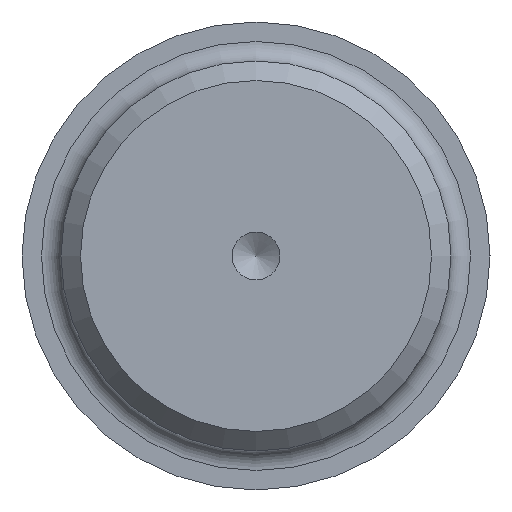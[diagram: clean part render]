
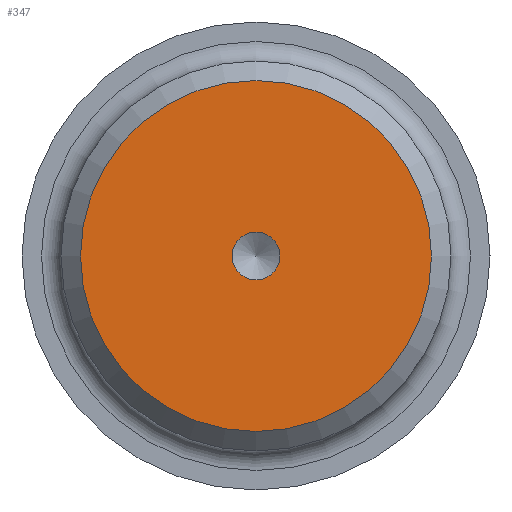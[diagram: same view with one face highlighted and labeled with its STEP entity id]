
A CAD part, left-side view. The second image highlights one B-rep face of the part: STEP entity #347.
In plain terms, the highlighted planar face has unit normal (-1, 0, 0).
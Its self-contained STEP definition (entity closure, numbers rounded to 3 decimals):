
#25=PLANE($,#399);
#62=FACE_BOUND($,#143,.T.);
#63=FACE_BOUND($,#144,.T.);
#143=EDGE_LOOP($,(#302));
#144=EDGE_LOOP($,(#303));
#157=CIRCLE($,#359,1.23);
#176=CIRCLE($,#398,9.);
#181=VERTEX_POINT($,#527);
#208=VERTEX_POINT($,#641);
#213=EDGE_CURVE($,#181,#181,#157,.T.);
#244=EDGE_CURVE($,#208,#208,#176,.T.);
#302=ORIENTED_EDGE($,*,*,#213,.T.);
#303=ORIENTED_EDGE($,*,*,#244,.F.);
#347=ADVANCED_FACE($,(#62,#63),#25,.T.);
#359=AXIS2_PLACEMENT_3D($,#528,#416,#417);
#398=AXIS2_PLACEMENT_3D($,#642,#502,#503);
#399=AXIS2_PLACEMENT_3D($,#643,#504,#505);
#416=DIRECTION('center_axis',(1.,0.,0.));
#417=DIRECTION('ref_axis',(0.,-1.,0.));
#502=DIRECTION('center_axis',(1.,0.,0.));
#503=DIRECTION('ref_axis',(0.,-1.,0.));
#504=DIRECTION('center_axis',(-1.,0.,0.));
#505=DIRECTION('ref_axis',(0.,0.,1.));
#527=CARTESIAN_POINT('',(0.,-1.23,0.));
#528=CARTESIAN_POINT('Origin',(0.,0.,0.));
#641=CARTESIAN_POINT('',(0.,9.,0.));
#642=CARTESIAN_POINT('Origin',(0.,0.,0.));
#643=CARTESIAN_POINT('Origin',(0.,10.,0.));
